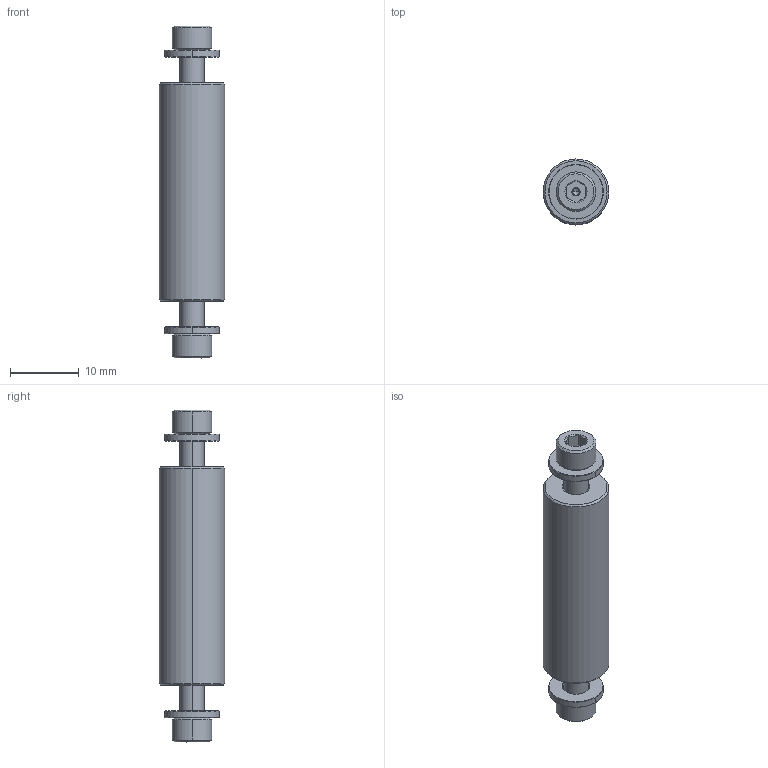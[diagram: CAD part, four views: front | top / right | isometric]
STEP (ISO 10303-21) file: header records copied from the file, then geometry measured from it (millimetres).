
FILE_DESCRIPTION (( 'STEP AP203' ), '1' );
FILE_NAME ('111173.stp', '2018-06-13T18:18:05', ( '' ), ( '' ), 'SwSTEP 2.0', 'SolidWorks 2012', '' );
FILE_SCHEMA (( 'CONFIG_CONTROL_DESIGN' ));
Length unit declared in the file: centimetre
Products named in the file (1): 111173
Bounding box: 9.53 x 9.53 x 48.16 mm (x, y, z)
Volume: 2557.5 mm3; surface area: 1682.6 mm2
Topology: 1 solids, 1 shells, 106 faces, 220 edges, 126 vertices
Faces by surface type: cone 58, plane 26, cylinder 22
Entity records: 2893 total; most frequent: CARTESIAN_POINT 535, DIRECTION 526, ORIENTED_EDGE 432, AXIS2_PLACEMENT_3D 217, EDGE_CURVE 216, VERTEX_POINT 126, EDGE_LOOP 120, CIRCLE 110
